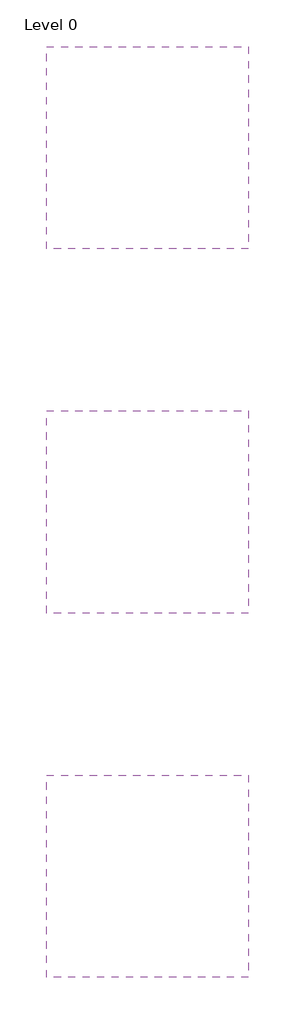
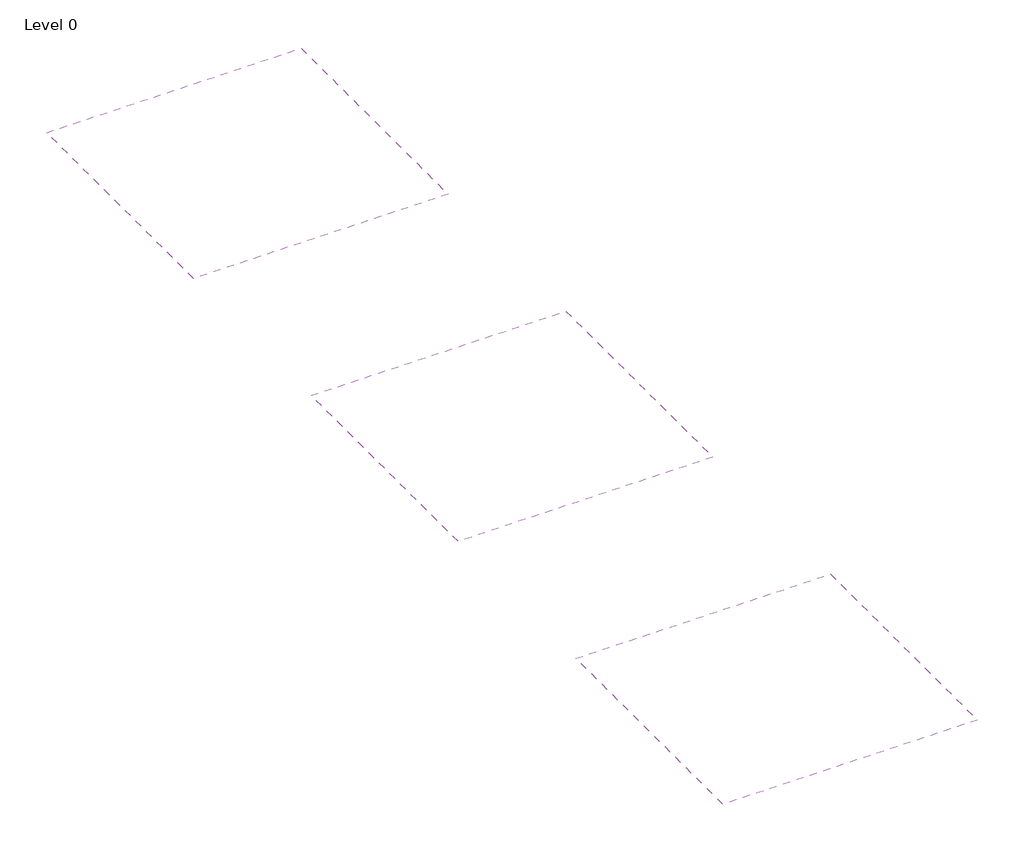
# One storey: 3 coverings.
"""IFC4 building model written with IfcOpenShell, lengths in millimetres."""

import ifcopenshell
import ifcopenshell.guid

model = None  # the IFC model being written
_history = None  # IfcOwnerHistory: only IFC2X3 demands one
_inside = {}  # id of a spatial element -> (the spatial element, [elements in it])
_under = {}  # id of a project, library or spatial element -> (it, [spatial elements below it])
_declared = {}  # id of a project -> (the project, [libraries it declares])
_typed = {}  # id of a type object -> (the type object, [elements of that type])
_made_of = {}  # id of a material, layer set ... -> (it, [elements and type objects made of it])


def new_model(schema):
    """Start an empty IFC model of exactly this schema.

    Asked for "IFC4X3", IfcOpenShell would pick the latest addendum, in which some entities
    have other attributes; the version numbers below select the first issue.
    IFC2X3 requires an IfcOwnerHistory on every rooted entity: one is made here for all.
    """
    global model, _history
    if schema == "IFC4X3":
        model = ifcopenshell.file(schema_version=(4, 3, 0, 0))
    else:
        model = ifcopenshell.file(schema=schema)
    _inside.clear()
    _under.clear()
    _declared.clear()
    _typed.clear()
    _made_of.clear()
    _history = None
    if model.schema == "IFC2X3":
        org = make("IfcOrganization", Name="unknown")
        user = make(
            "IfcPersonAndOrganization",
            ThePerson=make("IfcPerson", FamilyName="unknown"),
            TheOrganization=org,
        )
        app = make(
            "IfcApplication",
            ApplicationDeveloper=org,
            Version="unknown",
            ApplicationFullName="unknown",
            ApplicationIdentifier="unknown",
        )
        _history = make(
            "IfcOwnerHistory",
            OwningUser=user,
            OwningApplication=app,
            ChangeAction="ADDED",
            CreationDate=0,
        )
    return model


def make(cls, **values):
    """One entity of the class cls with the attributes given. An attribute that is None is left unset."""
    return model.create_entity(
        cls, **{name: value for name, value in values.items() if value is not None}
    )


def rooted(cls, **values):
    """An entity with a GlobalId (a new one), such as an element, a storey or a relation."""
    return make(cls, GlobalId=ifcopenshell.guid.new(), OwnerHistory=_history, **values)


def si_unit(unit_type, name, prefix=None):
    """IfcSIUnit, for example si_unit("LENGTHUNIT", "METRE", prefix="MILLI")."""
    return make("IfcSIUnit", UnitType=unit_type, Prefix=prefix, Name=name)


def assignment(units):
    """IfcUnitAssignment: the units of a project."""
    return None if units is None else make("IfcUnitAssignment", Units=units)


def point(xyz):
    """IfcCartesianPoint."""
    return None if xyz is None else make("IfcCartesianPoint", Coordinates=xyz)


def direction(xyz):
    """IfcDirection."""
    return None if xyz is None else make("IfcDirection", DirectionRatios=xyz)


def frame(location, z_axis=None, x_axis=None):
    """IfcAxis2Placement3D, a coordinate frame: its origin and axes. An axis left out is left unset."""
    return make(
        "IfcAxis2Placement3D",
        Location=point(location),
        Axis=direction(z_axis),
        RefDirection=direction(x_axis),
    )


def origin():
    """The frame at (0, 0, 0) with its axes left unset."""
    return frame((0.0, 0.0, 0.0))


def place(relative_to, where):
    """IfcLocalPlacement: puts the frame where relative to a parent placement (None: the world)."""
    return make(
        "IfcLocalPlacement", PlacementRelTo=relative_to, RelativePlacement=where
    )


def context(
    kind, dimensions, precision=None, world=None, true_north=None, identifier=None
):
    """IfcGeometricRepresentationContext, for example the 3D "Model" context."""
    return make(
        "IfcGeometricRepresentationContext",
        ContextIdentifier=identifier,
        ContextType=kind,
        CoordinateSpaceDimension=dimensions,
        Precision=precision,
        WorldCoordinateSystem=world,
        TrueNorth=true_north,
    )


def project(units=None, contexts=None):
    """IfcProject with its units and contexts."""
    return rooted(
        "IfcProject",
        Name="project",
        RepresentationContexts=contexts,
        UnitsInContext=assignment(units),
    )


def spatial(cls, under=None, at=None, **own):
    """A site, building, storey or space (cls), placed at a placement, below another one or the project."""
    s = rooted(cls, ObjectPlacement=at, **own)
    if under is not None:
        _under.setdefault(under.id(), (under, []))[1].append(s)
    return s


def polyline(points):
    """IfcPolyline through the points."""
    return make("IfcPolyline", Points=[point(p) for p in points])


def outline(outer, holes=None, kind="AREA"):
    """IfcArbitraryClosedProfileDef: a profile drawn as a closed curve; with holes, ...WithVoids."""
    if holes is None:
        return make("IfcArbitraryClosedProfileDef", ProfileType=kind, OuterCurve=outer)
    return make(
        "IfcArbitraryProfileDefWithVoids",
        ProfileType=kind,
        OuterCurve=outer,
        InnerCurves=holes,
    )


def extrude(swept, where, along, depth):
    """IfcExtrudedAreaSolid: the profile swept, set in the frame where, extruded along a direction by depth."""
    return make(
        "IfcExtrudedAreaSolid",
        SweptArea=swept,
        Position=where,
        ExtrudedDirection=direction(along),
        Depth=depth,
    )


def shape(context_of_items, identifier, shape_type, items):
    """IfcShapeRepresentation: the items that make up one representation, for example the "Body"."""
    return make(
        "IfcShapeRepresentation",
        ContextOfItems=context_of_items,
        RepresentationIdentifier=identifier,
        RepresentationType=shape_type,
        Items=items,
    )


def made_of(thing, what):
    """Note that an element or type object is made of a material, layer set ...; save() writes the relation."""
    if what is not None:
        _made_of.setdefault(what.id(), (what, []))[1].append(thing)
    return thing


def element(
    cls,
    number,
    at=None,
    inside=None,
    cuts=None,
    type_object=None,
    material=None,
    context=None,
    identifier="Body",
    shape_type=None,
    held_by="IfcProductDefinitionShape",
    body=None,
    shapes=None,
    **own,
):
    """One element of the class cls, such as IfcWall. Its Tag is "e" and its number.

    at: its placement. inside: the storey or other place that contains it. cuts: it is an
    opening in that element (IfcRelVoidsElement). A single representation is given by context,
    identifier, shape_type and body (its items); several are given by shapes. held_by: the class
    of the entity that holds the representations. save() writes the other relations.
    """
    e = rooted(cls, Tag="e%d" % number, ObjectPlacement=at, **own)
    if body is not None:
        shapes = [shape(context, identifier, shape_type, body)]
    if shapes is not None:
        e.Representation = make(held_by, Representations=shapes)
    if inside is not None:
        _inside.setdefault(inside.id(), (inside, []))[1].append(e)
    if cuts is not None:
        rooted(
            "IfcRelVoidsElement", RelatingBuildingElement=cuts, RelatedOpeningElement=e
        )
    if type_object is not None:
        _typed.setdefault(type_object.id(), (type_object, []))[1].append(e)
    return made_of(e, material)


def aggregate(whole, parts):
    """IfcRelAggregates: a whole, such as a stair, and the parts it consists of."""
    return rooted("IfcRelAggregates", RelatingObject=whole, RelatedObjects=parts)


def save(model, path):
    """Write the relations noted so far, then the file.

    IfcRelAggregates (storeys below a building ...), IfcRelContainedInSpatialStructure (elements
    in a storey), IfcRelDefinesByType, IfcRelAssociatesMaterial and IfcRelDeclares: one each for
    every whole, place, type object, material and project.
    """
    for whole, parts in _under.values():
        aggregate(whole, parts)
    for where, things in _inside.values():
        rooted(
            "IfcRelContainedInSpatialStructure",
            RelatedElements=things,
            RelatingStructure=where,
        )
    for kind, things in _typed.values():
        rooted("IfcRelDefinesByType", RelatedObjects=things, RelatingType=kind)
    for what, things in _made_of.values():
        rooted("IfcRelAssociatesMaterial", RelatedObjects=things, RelatingMaterial=what)
    for by, libraries in _declared.values():
        rooted("IfcRelDeclares", RelatingContext=by, RelatedDefinitions=libraries)
    model.write(path)


model = new_model("IFC4")

# Units and contexts
model_context = context("Model", 3, world=origin())
ifc_project = project(units=[si_unit("LENGTHUNIT", "METRE", prefix="MILLI")], contexts=[model_context])

# Site, building, storey
site = spatial("IfcSite", under=ifc_project)
building = spatial("IfcBuilding", under=site)
storey = spatial("IfcBuildingStorey", under=building, Name="Level 0", Elevation=0.0)

# Coverings
placement = place(None, origin())
element("IfcCovering", 1, ObjectType="NBS_Zentia_ModularSuspendedCeilingSystems_BioblocAcoustic_BoardEdgeInfills", at=placement, inside=storey, context=model_context, shape_type="SweptSolid", body=[
    extrude(outline(polyline([(2999.979, -1600.5531469), (2999.979, -4100.5531469), (499.979, -4100.5531469), (499.979, -1600.5531469), (2999.979, -1600.5531469)])), frame((0.0, 0.0, 2600.0), z_axis=(0.0, 0.0, 1.0), x_axis=(1.0, 0.0, 0.0)), (0.0, 0.0, 1.0), 17.0),
])
element("IfcCovering", 2, ObjectType="NBS_Zentia_ModularSuspendedCeilingSystems_BioblocAcoustic_Tegular15EdgeInfills", at=placement, inside=storey, context=model_context, shape_type="SweptSolid", body=[
    extrude(outline(polyline([(2999.979, -6100.5531469), (2999.979, -8600.5531469), (499.979, -8600.5531469), (499.979, -6100.5531469), (2999.979, -6100.5531469)])), frame((0.0, 0.0, 2600.0), z_axis=(0.0, 0.0, 1.0), x_axis=(1.0, 0.0, 0.0)), (0.0, 0.0, 1.0), 17.0),
])
element("IfcCovering", 3, ObjectType="NBS_Zentia_ModularSuspendedCeilingSystems_BioblocAcoustic_Tegular24EdgeInfills", at=placement, inside=storey, context=model_context, shape_type="SweptSolid", body=[
    extrude(outline(polyline([(2999.979, -10600.5531469), (2999.979, -13100.5531469), (499.979, -13100.5531469), (499.979, -10600.5531469), (2999.979, -10600.5531469)])), frame((0.0, 0.0, 2600.0), z_axis=(0.0, 0.0, 1.0), x_axis=(1.0, 0.0, 0.0)), (0.0, 0.0, 1.0), 17.0),
])

save(model, "model.ifc")
